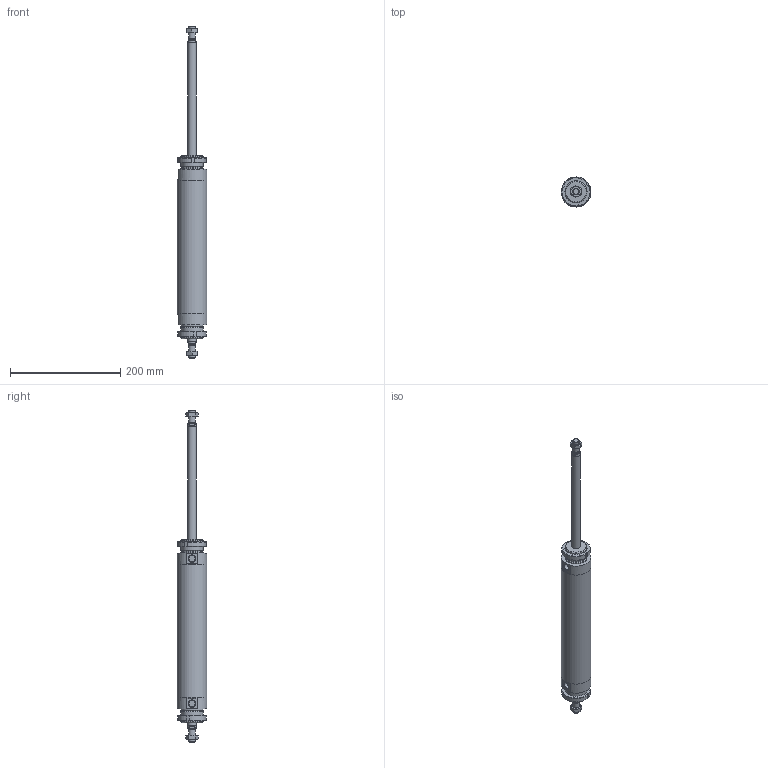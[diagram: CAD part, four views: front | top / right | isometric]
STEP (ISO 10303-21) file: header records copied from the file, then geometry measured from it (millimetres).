
FILE_DESCRIPTION(/* description */ (''),/* implementation_level */ '2;1');
FILE_NAME(/* name */ 'I:\Area Tecnica\Documenti\A-Manieri\_Inventor\12X\12X#S_###_####_#_#\12XCS_050_0200_#_#.stp',/* time_stamp */ '2015-05-08T14:18:57+02:00',/* author */ ('maniean1'),/* organization */ ('Pneumax S.p.A.'),/* preprocessor_version */ 'ST-DEVELOPER v15.2',/* originating_system */ 'Autodesk Inventor 2014',/* authorisation */ '');
FILE_SCHEMA (('AUTOMOTIVE_DESIGN { 1 0 10303 214 3 1 1 }'));
Length unit declared in the file: millimetre
Products named in the file (6): C1250_619-0200; 12X50_604; SP12X50_0200; 12X_50_11; G12X_050_05; 12XCS_050_0200_#_#
Bounding box: 54 x 54 x 602 mm (x, y, z)
Volume: 424111.1 mm3; surface area: 154493.9 mm2
Topology: 8 solids, 8 shells, 133 faces, 303 edges, 194 vertices
Faces by surface type: plane 66, cone 34, cylinder 33
Full cylindrical faces by diameter (mm): 10.2 x2, 11.4 x2, 12 x4, 14 x2, 15.6 x2, 16 x2, 38.2 x2, 40 x6, 50 x2, 54 x3
Entity records: 2300 total; most frequent: CARTESIAN_POINT 435, DIRECTION 388, ORIENTED_EDGE 310, AXIS2_PLACEMENT_3D 166, EDGE_CURVE 155, EDGE_LOOP 130, VERTEX_POINT 117, ADVANCED_FACE 85
